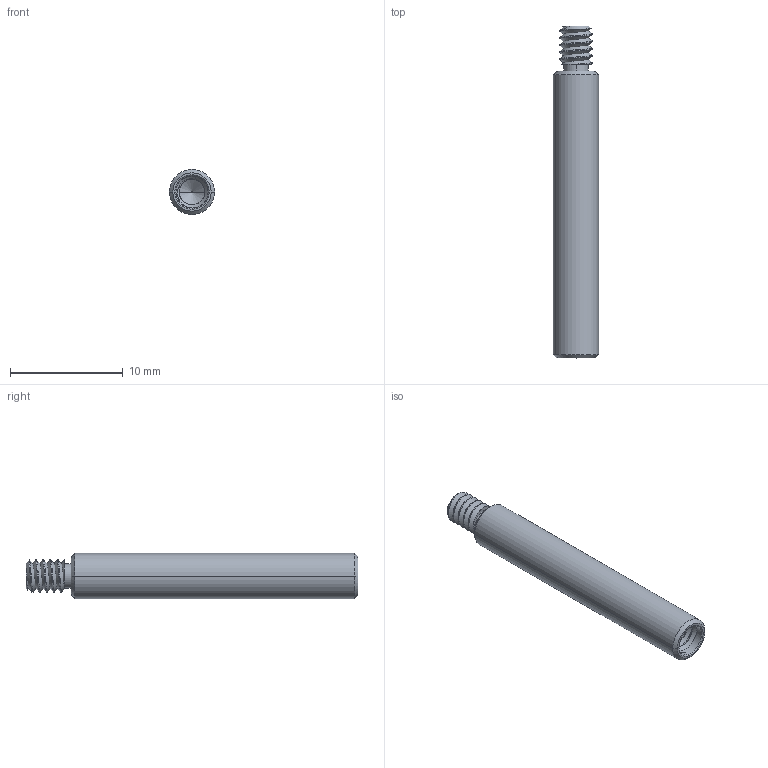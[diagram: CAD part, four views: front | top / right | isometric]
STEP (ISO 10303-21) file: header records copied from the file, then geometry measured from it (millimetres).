
FILE_DESCRIPTION((''),'2;1');
FILE_NAME('SR10','2022-11-15T',('daizh'),(''),'CREO PARAMETRIC BY PTC INC, 2018360','CREO PARAMETRIC BY PTC INC, 2018360','');
FILE_SCHEMA(('CONFIG_CONTROL_DESIGN'));
Length unit declared in the file: millimetre
Products named in the file (1): SR10
Bounding box: 4 x 29.4 x 4 mm (x, y, z)
Volume: 297 mm3; surface area: 462.2 mm2
Topology: 1 solids, 1 shells, 64 faces, 164 edges, 105 vertices
Faces by surface type: cylinder 35, bspline 14, cone 10, plane 5
Entity records: 4675 total; most frequent: CARTESIAN_POINT 3276, ORIENTED_EDGE 328, DIRECTION 202, EDGE_CURVE 164, VERTEX_POINT 105, B_SPLINE_CURVE_WITH_KNOTS 86, AXIS2_PLACEMENT_3D 74, EDGE_LOOP 67
